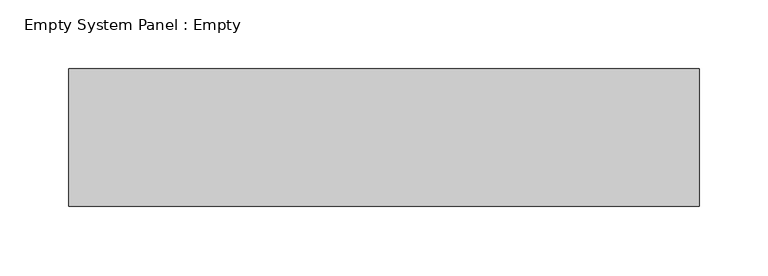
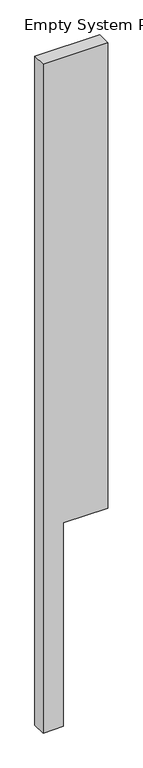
"""IFC4 building model written with IfcOpenShell, lengths in millimetres: plate geometry, Empty System Panel : Empty."""

from ifc_helpers import new_model, si_unit, frame, origin, place, context, project, spatial, polyline, outline, extrude, source, transform, mapped, element, save


def empty_system_panel_empty_d8998641(model_context):
    return source(origin(), model_context, "Body", "SweptSolid", [
        extrude(outline(polyline([(0.0, -229.6046705), (0.0, -85.6063296), (1526.7251941, -85.6063296), (1526.7251941, 229.6046705), (5015.4896072, 229.6046705), (5015.4896072, -229.6046705), (0.0, -229.6046705)])), frame((0.0, -50.0, 0.0), z_axis=(0.0, 1.0, 0.0), x_axis=(0.0, 0.0, 1.0)), (0.0, 0.0, 1.0), 100.0),
    ])


if __name__ == "__main__":
    model = new_model("IFC4")
    model_context = context("Model", 3, world=origin())
    ifc_project = project(units=[si_unit("LENGTHUNIT", "METRE", prefix="MILLI")], contexts=[model_context])
    site = spatial("IfcSite", under=ifc_project)
    building = spatial("IfcBuilding", under=site)
    placement = place(None, origin())
    empty_system_panel_empty_shape = empty_system_panel_empty_d8998641(model_context)
    element("IfcPlate", 1, ObjectType="Empty System Panel : Empty", at=placement, inside=building, context=model_context, shape_type="MappedRepresentation", body=[
        mapped(empty_system_panel_empty_shape, transform((0.0, 0.0, 0.0), x_axis=(1.0, 0.0, 0.0), y_axis=(0.0, 1.0, 0.0), z_axis=(0.0, 0.0, 1.0))),
    ])
    save(model, "model.ifc")
